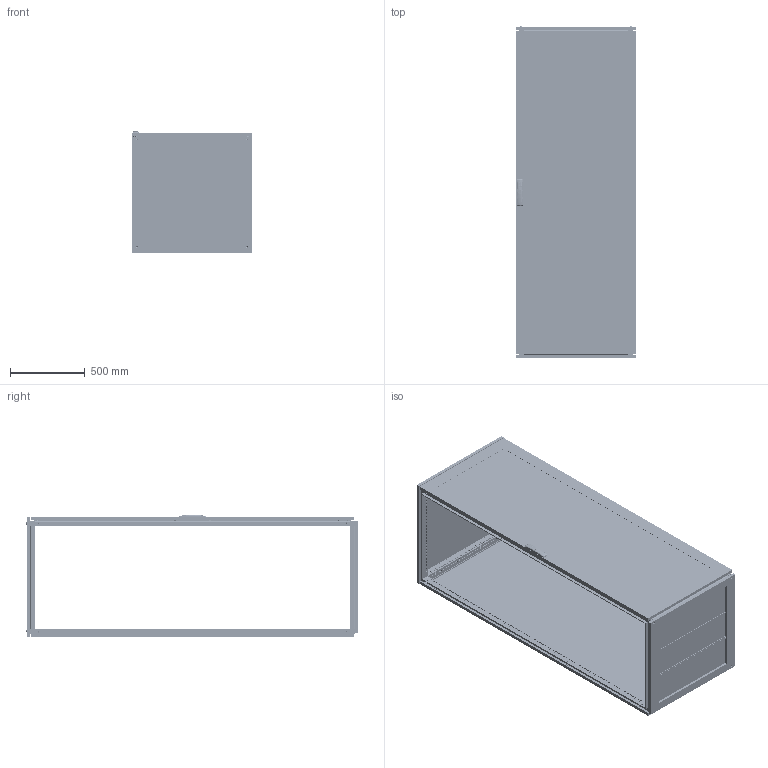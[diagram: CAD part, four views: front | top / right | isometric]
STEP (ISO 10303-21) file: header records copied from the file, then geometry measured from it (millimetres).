
FILE_DESCRIPTION (( 'STEP AP203' ), '1' );
FILE_NAME ('R5CQEN2288AX.STEP', '2025-05-07T12:18:29', ( '' ), ( '' ), 'SwSTEP 2.0', 'SolidWorks 2022', '' );
FILE_SCHEMA (( 'CONFIG_CONTROL_DESIGN' ));
Length unit declared in the file: millimetre
Products named in the file (65): 7 DIN 6799 Zinc; M12x16 ISO 7380-1 HX cl.4,8 Zinc_straight; RB.2969.00.00.0 СБ simple; RB.0528.04.00.0 СБ simple; M6 MGR-MKO-0625 simple_Thread; RB.2455.00.00.0 simple_-03; Glue CPTE simple_2200x0800; RB.0528.04.01.0 simple; PF 5x10 KTB simple_800x800; 4,0x16 F Torx Zinc (ART 88200)_thread; RB.2357.00.00.0 simple_-05; RB.2499.00.00.0 СБ simple_-21; TPA.08.0083.00.00.0 simple; RB.2968.00.00.0 simple; R5NKMN - Assem simple_R5NKMN22 (800х800); RB.0562.01.01.0 simple_-19; TPA.08.0139.00.01.0 simple; Square cap 20x20 simple; RB.2052.01.00.0 СБ simple_-30; Pin 4x16 DIN 7 AISI 303 (A1) simple; M6x15 Erickson cl.4,8 Zinc; R5NCRE-Assem simple_R5NCRE2280; M6 DIN 985 cl.6,0 Zinc_straight; M8x12 AC00C476 cl.8,8 Zinc_stright; RB.2172.00.00.1 simple; RB.0562.01.00.0 СБ simple_-19; RB.2456.00.00.0 simple_-03; M6x10 DIN 7500 E HX cl.5.8 Zinc_straight; R5NCPTE - Assem simple_R5NCPTE2280; TPA.08.0084.00.00.0 simple; RB.0528.00.01.0 simple_-06; RB.1957.00.00.0 simple_-11; RB.2680.00.01.0 simple; RB.0562.00.00.0 СБ simple_-19; RB.2457.00.00.0 СБ simple_-21; RB.2680.00.02.0 simple; R5NKTB - Assem simple_H=2200 R5NKTB88; М6х12 A5100231_straight; RB.0054.01.01.0 simple_-30; RB.1633.00.01.0 simple_-03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
Assembly tree (173 placements, depth 5):
  R5CQEN2288AX
    R5NCPTE - Assem simple_R5NCPTE2280
      RB.0562.00.00.0 СБ simple_-19
        RB.0562.01.00.0 СБ simple_-19
          RB.0562.01.01.0 simple_-19
          М6х12 A5100231_straight  x7
          RB.2702.00.00.0 simple  x4
          PF 7,5x15 CPE simple_2200x0800
          Glass CPTE_2200x0800
          Glue CPTE simple_2200x0800
        Square cap 20x20 simple  x2
        M6x15 Erickson cl.4,8 Zinc  x2
        RB.0528.00.01.0 simple_-06  x2
        ATOS Traction guide ILY03.35  x4
        RB.2357.00.00.0 simple_-05
        RB.2680.00.00.0 СБ simple
          TPA.08.0139.00.01.0 simple
          RB.2680.00.01.0 simple
          RB.2680.00.02.0 simple  x2
        TPA.08.0139.00.03.0  x2
        M6 DIN 985 cl.6,0 Zinc_straight  x4
        4,0x16 F Torx Zinc (ART 88200)_thread  x2
        RB.0528.04.00.0 СБ simple  x2
          RB.0528.04.01.0 simple
          Pressing stud FH-M6-12_M6x12mm
      M6x10 DIN 912 HX cl.8,8 Zinc_straight  x8
      4.8x13 DIN 7981 PH Zinc_straight
      7 DIN 6799 Zinc simple  x4
      RB.2968.00.00.0 simple  x4
      RB.2969.00.00.0 СБ simple  x4
        RB.2969.00.01.0 simple
        Pin 4x16 DIN 7 AISI 303 (A1) simple
        M6 MGR-MKO-0625 simple_Thread
      AC00C446-R
      RB.2696.00.00.0 simple  x4
      7 DIN 6799 Zinc  x4
    R5NCRE-Assem simple_R5NCRE2280
      RB.2052.00.00.0 СБ simple_-30
        RB.2052.01.00.0 СБ simple_-30
          RB.0054.01.01.0 simple_-30
          М6х12 A5100231_straight  x4
        PF 7x14 CRE simple_2200x0800
      RB.2172.00.00.1 simple  x8
      M6x10 DIN 7500 E HX cl.5.8 Zinc_straight  x8
      M6x10 DIN 7500 M Torx cl.5.8 Zinc_straight  x8
    R5NKMN - Assem simple_R5NKMN22 (800х800)
      RB.2528.00.00.0 simple_-06  x4
    R5NKTB - Assem simple_H=2200 R5NKTB88
      RB.2499.00.00.0 СБ simple_-21
        RB.2499.01.00.0 СБ simple_-20
          RB.1633.00.01.0 simple_-03  x2
          RB.1633.00.02.0 simple_-03  x2
          PF 5x10 KTB simple_800x800
        RB.2457.00.00.0 СБ simple_-21
          RB.2455.00.00.0 simple_-03  x2
          RB.2456.00.00.0 simple_-03  x2
          TPA.08.0084.00.00.0 simple  x2
          TPA.08.0083.00.00.0 simple  x2
          M8x12 AC00C476 cl.8,8 Zinc_stright  x4
        RB.1957.00.00.0 simple_-11  x3
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Bounding box: 800 x 2213.3 x 814.78 mm (x, y, z)
Volume: 18260240.4 mm3; surface area: 17807967.2 mm2
Topology: 172 solids, 192 shells, 24929 faces, 71019 edges, 46859 vertices
Faces by surface type: plane 13747, cylinder 9641, cone 704, bspline 435, torus 368, sphere 34
Entity records: 246309 total; most frequent: CARTESIAN_POINT 59207, ORIENTED_EDGE 37250, DIRECTION 35751, EDGE_CURVE 18651, VERTEX_POINT 12362, AXIS2_PLACEMENT_3D 12025, LINE 11701, VECTOR 11701
